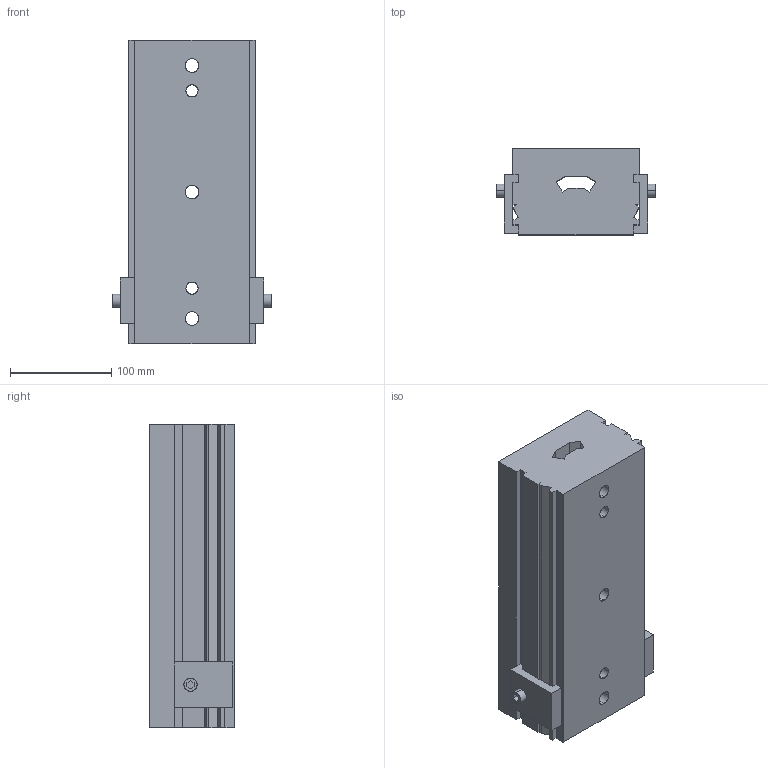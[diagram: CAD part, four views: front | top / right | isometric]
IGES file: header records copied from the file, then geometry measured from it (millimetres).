
Start section: START RECORD GO HERE.
Global section: file name: A945-01-1230-01-S-BC.igs; native system: DASSAULT SYSTEMES CATIA V5 R20 - www.3ds.com; preprocessor: CATIA Version 5 Release 20 ; author: Utente; organization: NB04-ASUS; date: 20200417.111728; units: millimetre
Bounding box: 158 x 85 x 300 mm (x, y, z)
Surface area: 205525.7 mm2 (no closed solid volume)
Topology: 0 solids, 0 shells, 104 faces, 588 edges, 588 vertices
Faces by surface type: extrusion 80, revolution 24
